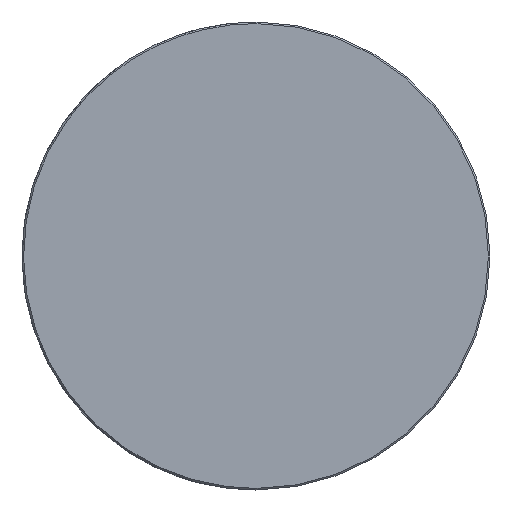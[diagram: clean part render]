
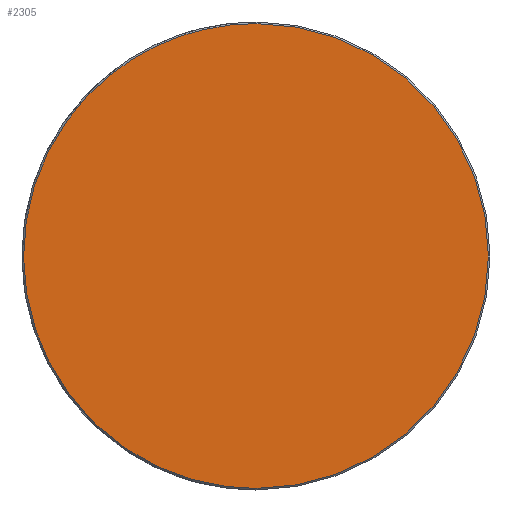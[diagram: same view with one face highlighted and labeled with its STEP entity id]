
A CAD part, front view. The second image highlights one B-rep face of the part: STEP entity #2305.
In plain terms, the highlighted planar face has unit normal (0, -1, 0).
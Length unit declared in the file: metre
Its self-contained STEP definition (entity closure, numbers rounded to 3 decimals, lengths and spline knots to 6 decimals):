
#20=EDGE_CURVE('',#21,#23,#25,.F.);
#21=VERTEX_POINT('',#22);
#22=CARTESIAN_POINT('',(0.0,-0.014,-0.0298));
#23=VERTEX_POINT('',#24);
#24=CARTESIAN_POINT('',(0.0,-0.014,0.0298));
#25=CIRCLE('',#26,0.0298);
#26=AXIS2_PLACEMENT_3D('',#27,#28,#29);
#27=CARTESIAN_POINT('',(0.0,-0.014,0.0));
#28=DIRECTION('',(0.0,1.0,0.0));
#29=DIRECTION('',(0.0,0.0,1.0));
#2305=ADVANCED_FACE('',(#2311),#2306,.F.);
#2306=PLANE('',#2307);
#2307=AXIS2_PLACEMENT_3D('',#2308,#2309,#2310);
#2308=CARTESIAN_POINT('',(0.0,-0.014,0.03));
#2309=DIRECTION('',(0.0,1.0,0.0));
#2310=DIRECTION('',(0.0,0.0,1.0));
#2311=FACE_OUTER_BOUND('',#2312,.T.);
#2312=EDGE_LOOP('',(#2313,#2321));
#2313=ORIENTED_EDGE('',*,*,#2315,.T.);
#2314=CARTESIAN_POINT('',(0.0,-0.014,-0.0298));
#2315=EDGE_CURVE('',#23,#21,#2316,.F.);
#2316=(B_SPLINE_CURVE(3,(#2314,#2317,#2318,#2319),.UNSPECIFIED.,.F.,.U.)B_SPLINE_CURVE_WITH_KNOTS(
  (4,4),(0.0,1.0),.UNSPECIFIED.)BOUNDED_CURVE()CURVE()GEOMETRIC_REPRESENTATION_ITEM(
  )RATIONAL_B_SPLINE_CURVE((1.0,0.333,0.333,1.0)
  )REPRESENTATION_ITEM(''));
#2317=CARTESIAN_POINT('',(-0.0596,-0.014,-0.0298));
#2318=CARTESIAN_POINT('',(-0.0596,-0.014,0.0298));
#2319=CARTESIAN_POINT('',(0.0,-0.014,0.0298));
#2321=ORIENTED_EDGE('',*,*,#20,.T.);
